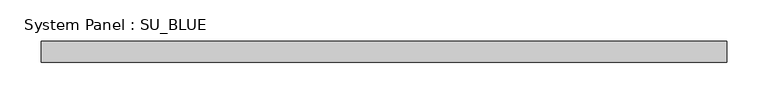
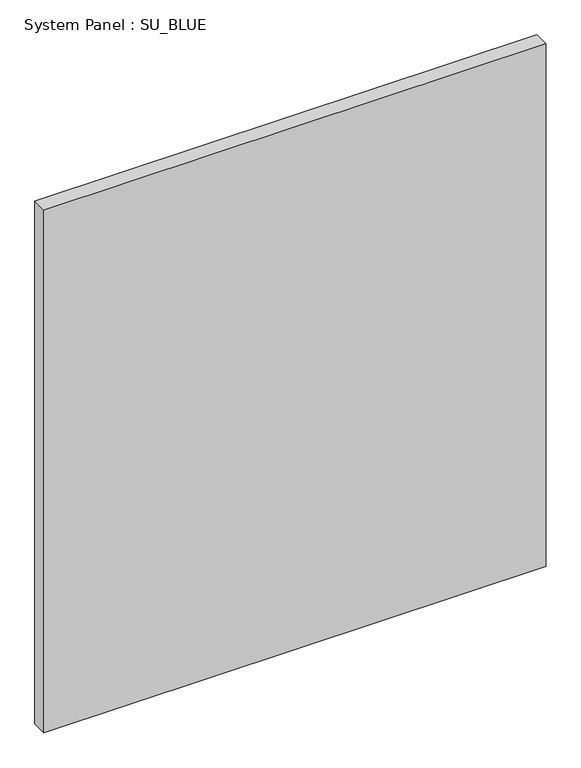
"""IFC4 building model written with IfcOpenShell, lengths in millimetres: plate geometry, System Panel : SU_BLUE."""

from ifc_helpers import new_model, si_unit, origin, origin_with_axes, place, context, project, spatial, polyline, outline, extrude, source, transform, mapped, element, save


def system_panel_su_blue_144861c6(model_context):
    return source(origin(), model_context, "Body", "SweptSolid", [
        extrude(outline(polyline([(415.3596078, 19.05), (-415.3596078, 19.05), (-415.3596078, 44.45), (415.3596078, 44.45), (415.3596078, 19.05)])), origin_with_axes(), (0.0, 0.0, 1.0), 914.4),
    ])


if __name__ == "__main__":
    model = new_model("IFC4")
    model_context = context("Model", 3, world=origin())
    ifc_project = project(units=[si_unit("LENGTHUNIT", "METRE", prefix="MILLI")], contexts=[model_context])
    site = spatial("IfcSite", under=ifc_project)
    building = spatial("IfcBuilding", under=site)
    placement = place(None, origin())
    system_panel_su_blue_shape = system_panel_su_blue_144861c6(model_context)
    element("IfcPlate", 1, ObjectType="System Panel : SU_BLUE", at=placement, inside=building, context=model_context, shape_type="MappedRepresentation", body=[
        mapped(system_panel_su_blue_shape, transform((0.0, 0.0, 0.0), x_axis=(1.0, 0.0, 0.0), y_axis=(0.0, 1.0, 0.0), z_axis=(0.0, 0.0, 1.0))),
    ])
    save(model, "model.ifc")
